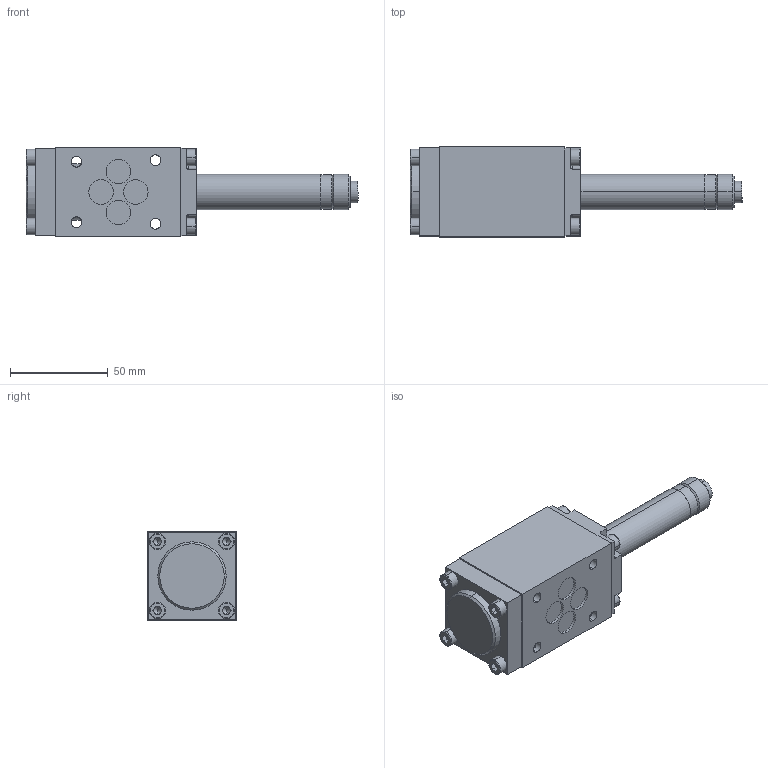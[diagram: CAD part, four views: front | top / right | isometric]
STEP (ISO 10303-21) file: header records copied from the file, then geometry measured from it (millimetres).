
FILE_DESCRIPTION (( 'STEP AP214' ), '1' );
FILE_NAME ('AEXd22060b.STEP', '2017-03-02T07:07:06', ( '' ), ( '' ), 'SwSTEP 2.0', 'SolidWorks 2016', '' );
FILE_SCHEMA (( 'AUTOMOTIVE_DESIGN' ));
Length unit declared in the file: millimetre
Products named in the file (1): AEXd22060b
Bounding box: 169.9 x 46 x 46 mm (x, y, z)
Volume: 188732.5 mm3; surface area: 32607.1 mm2
Topology: 1 solids, 6 shells, 690 faces, 1774 edges, 1120 vertices
Faces by surface type: plane 456, cylinder 131, cone 59, torus 38, bspline 6
Entity records: 29265 total; most frequent: CARTESIAN_POINT 4785, DIRECTION 3508, ORIENTED_EDGE 3488, EDGE_CURVE 1744, VECTOR 1226, LINE 1226, AXIS2_PLACEMENT_3D 1141, VERTEX_POINT 1120
